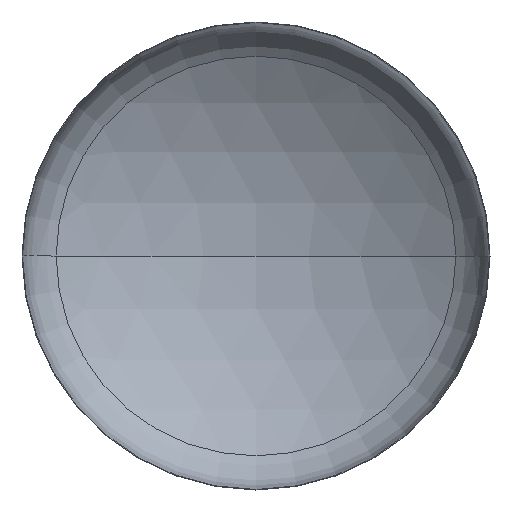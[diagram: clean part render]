
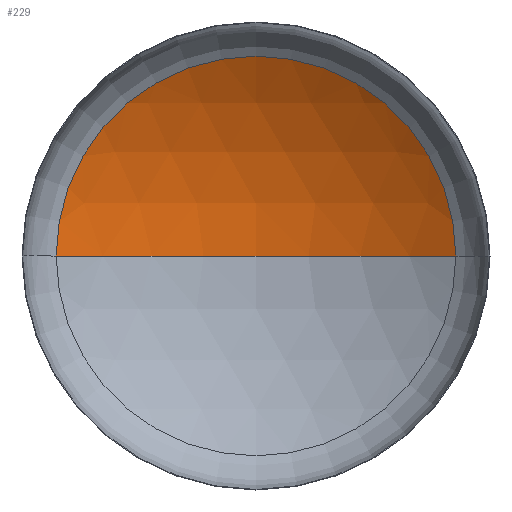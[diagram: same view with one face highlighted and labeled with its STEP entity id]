
A CAD part, front view. The second image highlights one B-rep face of the part: STEP entity #229.
In plain terms, the highlighted spherical face has radius 4800 mm.
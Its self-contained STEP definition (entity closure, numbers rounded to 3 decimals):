
#1 = ORIENTED_EDGE ( 'NONE', *, *, #256, .T. ) ;
#56 = EDGE_LOOP ( 'NONE', ( #104, #1, #98 ) ) ;
#59 = VERTEX_POINT ( 'NONE', #238 ) ;
#77 = VERTEX_POINT ( 'NONE', #211 ) ;
#89 = CIRCLE ( 'NONE', #106, 4800. ) ;
#98 = ORIENTED_EDGE ( 'NONE', *, *, #253, .T. ) ;
#104 = ORIENTED_EDGE ( 'NONE', *, *, #262, .F. ) ;
#106 = AXIS2_PLACEMENT_3D ( 'NONE', #227, #225, #224 ) ;
#107 = CIRCLE ( 'NONE', #121, 2561.652 ) ;
#113 = AXIS2_PLACEMENT_3D ( 'NONE', #201, #199, #200 ) ;
#119 = VERTEX_POINT ( 'NONE', #331 ) ;
#121 = AXIS2_PLACEMENT_3D ( 'NONE', #401, #288, #163 ) ;
#154 = AXIS2_PLACEMENT_3D ( 'NONE', #339, #336, #177 ) ;
#163 = DIRECTION ( 'NONE',  ( 1., 0., 0. ) ) ;
#177 = DIRECTION ( 'NONE',  ( -1., 0., 0. ) ) ;
#199 = DIRECTION ( 'NONE',  ( 0., 0., -1. ) ) ;
#200 = DIRECTION ( 'NONE',  ( -1., 0., 0. ) ) ;
#201 = CARTESIAN_POINT ( 'NONE',  ( 0., -3252.042, 0. ) ) ;
#211 = CARTESIAN_POINT ( 'NONE',  ( 2561.652, 807.262, 0. ) ) ;
#224 = DIRECTION ( 'NONE',  ( 1., 0., 0. ) ) ;
#225 = DIRECTION ( 'NONE',  ( 0., 0., 1. ) ) ;
#227 = CARTESIAN_POINT ( 'NONE',  ( 0., -3252.042, 0. ) ) ;
#229 = ADVANCED_FACE ( 'NONE', ( #347 ), #402, .F. ) ;
#238 = CARTESIAN_POINT ( 'NONE',  ( 0., 1547.958, 0. ) ) ;
#253 = EDGE_CURVE ( 'NONE', #77, #119, #107, .T. ) ;
#256 = EDGE_CURVE ( 'NONE', #59, #77, #397, .T. ) ;
#262 = EDGE_CURVE ( 'NONE', #59, #119, #89, .T. ) ;
#288 = DIRECTION ( 'NONE',  ( 0., -1., 0. ) ) ;
#331 = CARTESIAN_POINT ( 'NONE',  ( -2561.652, 807.262, 0. ) ) ;
#336 = DIRECTION ( 'NONE',  ( 0., 0., -1. ) ) ;
#339 = CARTESIAN_POINT ( 'NONE',  ( 0., -3252.042, 0. ) ) ;
#347 = FACE_OUTER_BOUND ( 'NONE', #56, .T. ) ;
#397 = CIRCLE ( 'NONE', #113, 4800. ) ;
#401 = CARTESIAN_POINT ( 'NONE',  ( 0., 807.262, 0. ) ) ;
#402 = SPHERICAL_SURFACE ( 'NONE', #154, 4800. ) ;
